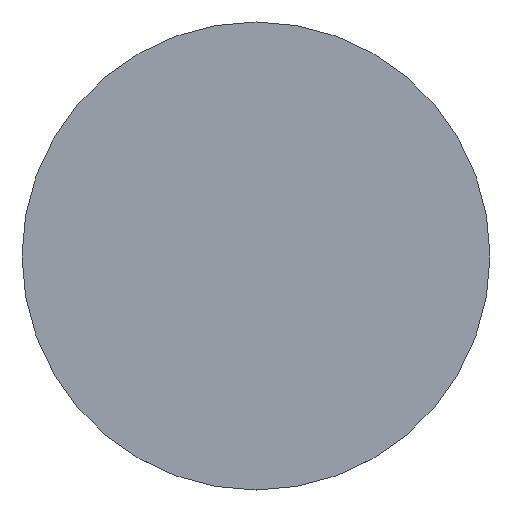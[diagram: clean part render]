
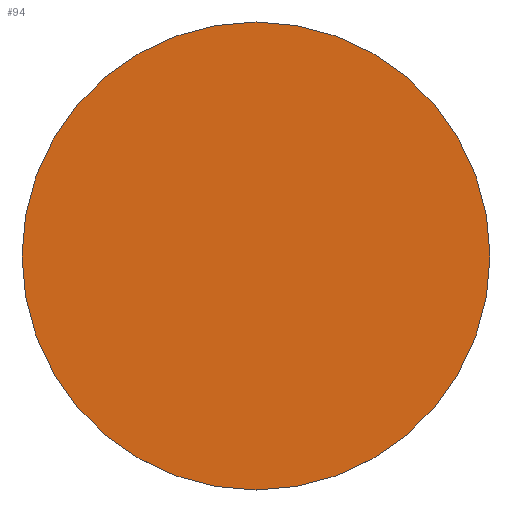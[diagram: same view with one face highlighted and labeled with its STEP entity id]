
A CAD part, top view. The second image highlights one B-rep face of the part: STEP entity #94.
In plain terms, the highlighted planar face has unit normal (0, 0, 1).
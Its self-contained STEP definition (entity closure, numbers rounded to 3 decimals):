
#94=ADVANCED_FACE('',(#179),#1410,.T.);
#179=FACE_OUTER_BOUND('',#273,.T.);
#273=EDGE_LOOP('',(#597,#598));
#597=ORIENTED_EDGE('',*,*,#867,.T.);
#598=ORIENTED_EDGE('',*,*,#864,.T.);
#864=EDGE_CURVE('',#1325,#1323,#995,.T.);
#867=EDGE_CURVE('',#1323,#1325,#997,.T.);
#995=TRIMMED_CURVE($,#1125,(#2987),(#2988),.T.,.CARTESIAN.);
#997=TRIMMED_CURVE($,#1127,(#2995),(#2996),.T.,.CARTESIAN.);
#1125=CIRCLE('',#1676,200.);
#1127=CIRCLE('',#1678,200.);
#1323=VERTEX_POINT('',#2733);
#1325=VERTEX_POINT('',#2735);
#1410=PLANE('',#1596);
#1596=AXIS2_PLACEMENT_3D('',#2546,#1836,$);
#1676=AXIS2_PLACEMENT_3D($,#2986,#1985,#1986);
#1678=AXIS2_PLACEMENT_3D($,#2994,#1989,#1990);
#1836=DIRECTION('',(0.,0.,1.));
#1985=DIRECTION('',(0.,0.,1.));
#1986=DIRECTION('',(0.,1.,0.));
#1989=DIRECTION('',(0.,0.,1.));
#1990=DIRECTION('',(0.,-1.,0.));
#2546=CARTESIAN_POINT('',(-200.,200.,452.));
#2733=CARTESIAN_POINT('',(0.,-200.,452.));
#2735=CARTESIAN_POINT('',(0.,200.,452.));
#2986=CARTESIAN_POINT('',(0.,0.,452.));
#2987=CARTESIAN_POINT('',(0.,200.,452.));
#2988=CARTESIAN_POINT('',(0.,-200.,452.));
#2994=CARTESIAN_POINT('',(0.,0.,452.));
#2995=CARTESIAN_POINT('',(0.,-200.,452.));
#2996=CARTESIAN_POINT('',(0.,200.,452.));
